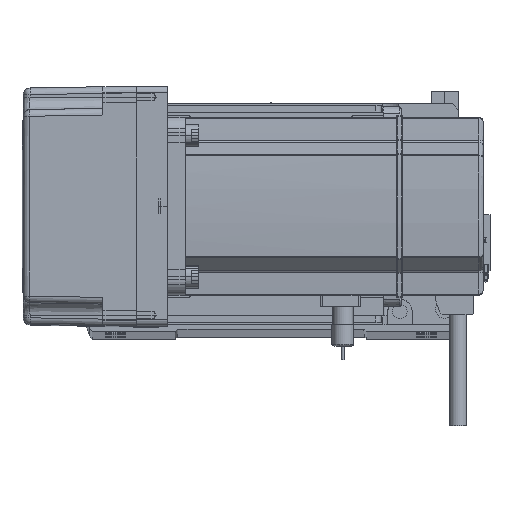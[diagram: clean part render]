
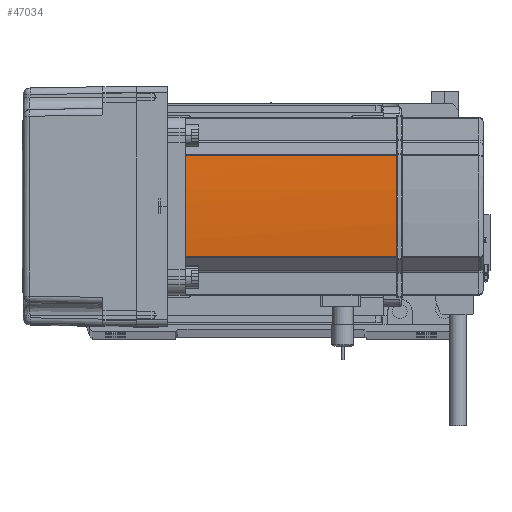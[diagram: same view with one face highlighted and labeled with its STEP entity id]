
A CAD part, top view. The second image highlights one B-rep face of the part: STEP entity #47034.
In plain terms, the highlighted cylindrical face has radius 270 mm (diameter 540 mm), a partial arc.
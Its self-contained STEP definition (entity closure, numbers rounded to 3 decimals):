
#4189 = CARTESIAN_POINT ( 'NONE',  ( 40., 0.042, 134. ) ) ;
#4310 = DIRECTION ( 'NONE',  ( 0., 0., -1. ) ) ;
#4717 = DIRECTION ( 'NONE',  ( -1., 0., 0. ) ) ;
#8386 = VECTOR ( 'NONE', #44068, 1000. ) ;
#9905 = LINE ( 'NONE', #34896, #8386 ) ;
#10098 = DIRECTION ( 'NONE',  ( 0., 0., -1. ) ) ;
#14149 = ORIENTED_EDGE ( 'NONE', *, *, #20243, .F. ) ;
#14663 = DIRECTION ( 'NONE',  ( -1., 0., 0. ) ) ;
#15285 = DIRECTION ( 'NONE',  ( 0., 0., -1. ) ) ;
#15774 = CARTESIAN_POINT ( 'NONE',  ( 39.042, 22.724, 39. ) ) ;
#16705 = CIRCLE ( 'NONE', #45301, 270. ) ;
#16836 = VERTEX_POINT ( 'NONE', #25417 ) ;
#16865 = CARTESIAN_POINT ( 'NONE',  ( 40., -0.127, 134. ) ) ;
#16945 = CARTESIAN_POINT ( 'NONE',  ( 39.042, -22.724, 134. ) ) ;
#17204 = CYLINDRICAL_SURFACE ( 'NONE', #36394, 270. ) ;
#17796 = CARTESIAN_POINT ( 'NONE',  ( -230., 0., 39. ) ) ;
#18739 = ORIENTED_EDGE ( 'NONE', *, *, #55880, .T. ) ;
#20243 = EDGE_CURVE ( 'NONE', #53726, #33511, #47143, .T. ) ;
#25417 = CARTESIAN_POINT ( 'NONE',  ( 39.042, 22.724, 134. ) ) ;
#26215 = CARTESIAN_POINT ( 'NONE',  ( 40., -0.127, 134. ) ) ;
#26623 = CARTESIAN_POINT ( 'NONE',  ( 39.042, -22.724, 39. ) ) ;
#29170 = CARTESIAN_POINT ( 'NONE',  ( -230., 0., 58. ) ) ;
#33209 = CARTESIAN_POINT ( 'NONE',  ( -230., 0., 134. ) ) ;
#33511 = VERTEX_POINT ( 'NONE', #26623 ) ;
#33528 = VERTEX_POINT ( 'NONE', #37030 ) ;
#33545 = DIRECTION ( 'NONE',  ( -1., 0., 0. ) ) ;
#34896 = CARTESIAN_POINT ( 'NONE',  ( 39.042, -22.724, 58. ) ) ;
#35123 = DIRECTION ( 'NONE',  ( 0., 0., 1. ) ) ;
#36394 = AXIS2_PLACEMENT_3D ( 'NONE', #29170, #10098, #33545 ) ;
#36858 = VERTEX_POINT ( 'NONE', #16865 ) ;
#36878 = ORIENTED_EDGE ( 'NONE', *, *, #43765, .T. ) ;
#37030 = CARTESIAN_POINT ( 'NONE',  ( 40., 0.127, 134. ) ) ;
#38841 = ORIENTED_EDGE ( 'NONE', *, *, #47796, .T. ) ;
#39040 = AXIS2_PLACEMENT_3D ( 'NONE', #33209, #4310, #4717 ) ;
#40254 = LINE ( 'NONE', #48919, #47793 ) ;
#41753 = ORIENTED_EDGE ( 'NONE', *, *, #56405, .T. ) ;
#41841 = CARTESIAN_POINT ( 'NONE',  ( 40., -0.042, 134. ) ) ;
#43309 = VERTEX_POINT ( 'NONE', #16945 ) ;
#43469 = ORIENTED_EDGE ( 'NONE', *, *, #55360, .F. ) ;
#43765 = EDGE_CURVE ( 'NONE', #16836, #33528, #46362, .T. ) ;
#44068 = DIRECTION ( 'NONE',  ( 0., 0., -1. ) ) ;
#44121 = CARTESIAN_POINT ( 'NONE',  ( -230., 0., 134. ) ) ;
#45301 = AXIS2_PLACEMENT_3D ( 'NONE', #44121, #15285, #14663 ) ;
#46362 = CIRCLE ( 'NONE', #39040, 270. ) ;
#47034 = ADVANCED_FACE ( 'NONE', ( #53848 ), #17204, .T. ) ;
#47143 = CIRCLE ( 'NONE', #48804, 270. ) ;
#47793 = VECTOR ( 'NONE', #35123, 1000. ) ;
#47796 = EDGE_CURVE ( 'NONE', #53726, #16836, #40254, .T. ) ;
#48804 = AXIS2_PLACEMENT_3D ( 'NONE', #17796, #61227, #52040 ) ;
#48919 = CARTESIAN_POINT ( 'NONE',  ( 39.042, 22.724, 58. ) ) ;
#52040 = DIRECTION ( 'NONE',  ( -1., 0., 0. ) ) ;
#52292 = CARTESIAN_POINT ( 'NONE',  ( 40., 0.127, 134. ) ) ;
#53726 = VERTEX_POINT ( 'NONE', #15774 ) ;
#53848 = FACE_OUTER_BOUND ( 'NONE', #56845, .T. ) ;
#55360 = EDGE_CURVE ( 'NONE', #36858, #33528, #55739, .T. ) ;
#55739 = B_SPLINE_CURVE_WITH_KNOTS ( 'NONE', 3,
 ( #26215, #41841, #4189, #52292 ),
 .UNSPECIFIED., .F., .F.,
 ( 4, 4 ),
 ( 0., 1. ),
 .UNSPECIFIED. ) ;
#55880 = EDGE_CURVE ( 'NONE', #36858, #43309, #16705, .T. ) ;
#56405 = EDGE_CURVE ( 'NONE', #43309, #33511, #9905, .T. ) ;
#56845 = EDGE_LOOP ( 'NONE', ( #41753, #14149, #38841, #36878, #43469, #18739 ) ) ;
#61227 = DIRECTION ( 'NONE',  ( 0., 0., -1. ) ) ;
